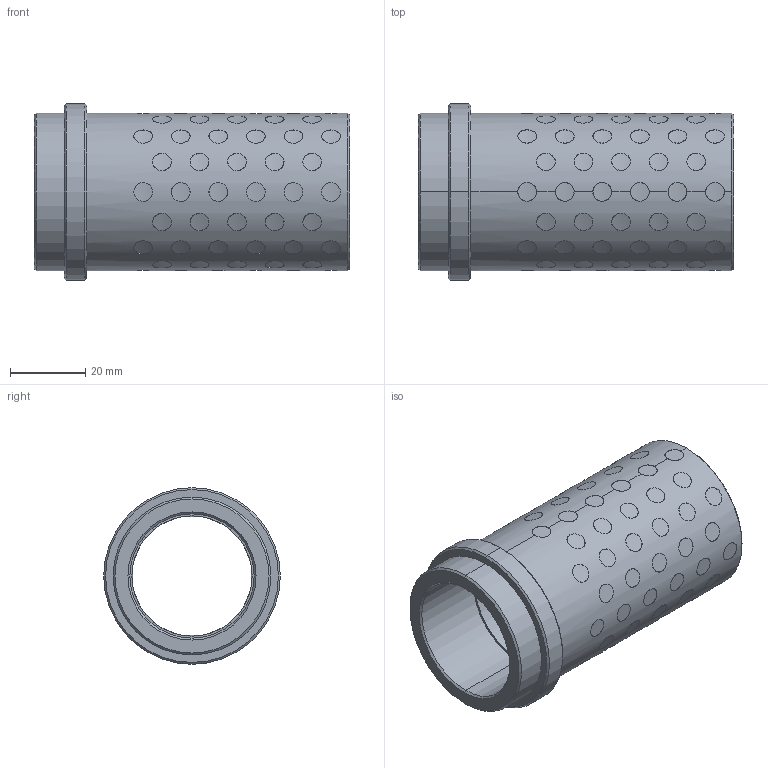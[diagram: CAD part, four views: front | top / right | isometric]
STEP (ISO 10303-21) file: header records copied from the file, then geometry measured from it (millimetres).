
FILE_DESCRIPTION((''),'2;1');
FILE_NAME('G31232076','2017-12-30T',('MANU'),(''),'PRO/ENGINEER BY PARAMETRIC TECHNOLOGY CORPORATION, 2012130','PRO/ENGINEER BY PARAMETRIC TECHNOLOGY CORPORATION, 2012130','');
FILE_SCHEMA(('CONFIG_CONTROL_DESIGN'));
Length unit declared in the file: millimetre
Products named in the file (1): G31232076
Bounding box: 84 x 47 x 47 mm (x, y, z)
Volume: 49524.5 mm3; surface area: 35077.3 mm2
Topology: 89 solids, 89 shells, 555 faces, 1182 edges, 784 vertices
Faces by surface type: cylinder 538, cone 12, plane 5
Entity records: 27430 total; most frequent: CARTESIAN_POINT 16605, ORIENTED_EDGE 2364, DIRECTION 1572, EDGE_CURVE 1182, VERTEX_POINT 784, B_SPLINE_CURVE_WITH_KNOTS 752, EDGE_LOOP 712, AXIS2_PLACEMENT_3D 587
